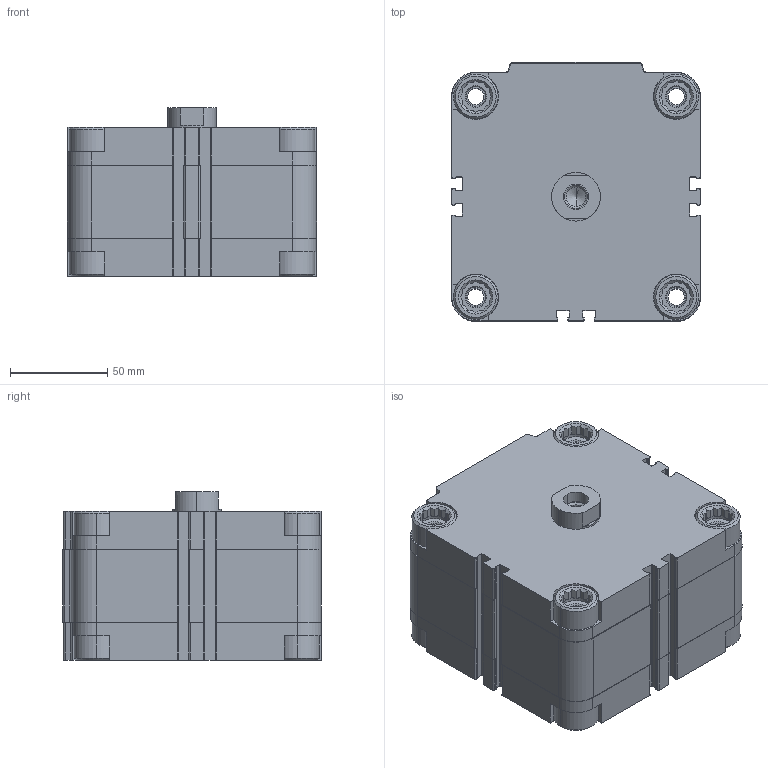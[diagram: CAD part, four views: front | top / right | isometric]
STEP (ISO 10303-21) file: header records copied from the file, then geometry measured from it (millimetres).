
FILE_DESCRIPTION (( 'STEP AP203' ), '1' );
FILE_NAME ('CDVU100-10F.STEP', '2020-03-30T15:04:39', ( '' ), ( '' ), 'SwSTEP 2.0', 'SolidWorks 2019', '' );
FILE_SCHEMA (( 'CONFIG_CONTROL_DESIGN' ));
Length unit declared in the file: millimetre
Products named in the file (1): CDVU100-10F
Bounding box: 128 x 133 x 86.5 mm (x, y, z)
Volume: 1135033.6 mm3; surface area: 144160.1 mm2
Topology: 2 solids, 2 shells, 657 faces, 1778 edges, 1167 vertices
Faces by surface type: plane 389, cylinder 206, cone 62
Entity records: 20873 total; most frequent: CARTESIAN_POINT 4173, ORIENTED_EDGE 3544, DIRECTION 3384, EDGE_CURVE 1772, VERTEX_POINT 1167, AXIS2_PLACEMENT_3D 1146, VECTOR 1092, LINE 1092
